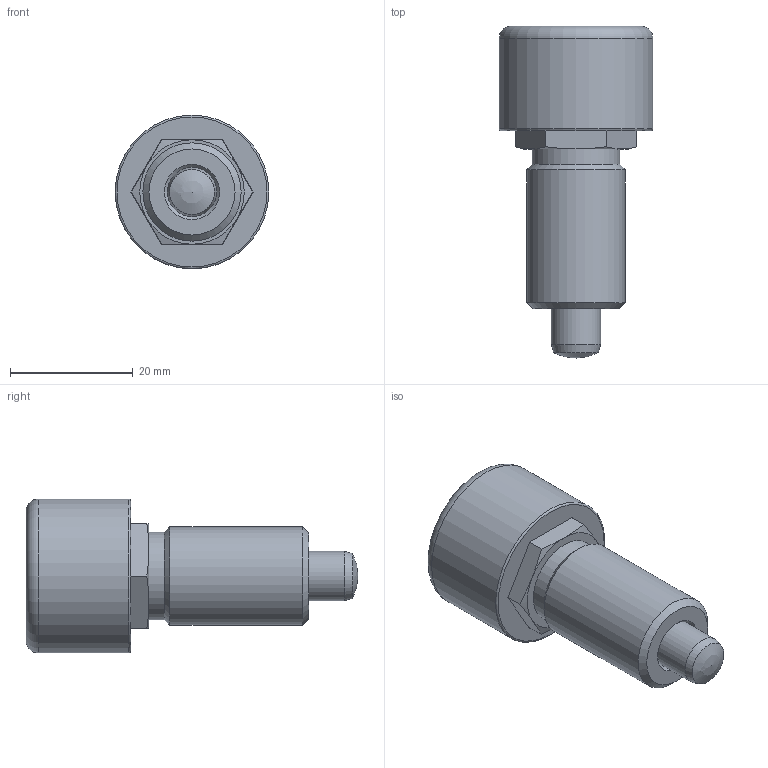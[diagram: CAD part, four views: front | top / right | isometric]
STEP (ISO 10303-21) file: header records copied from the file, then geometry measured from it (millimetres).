
FILE_DESCRIPTION( ( 'STEP AP203' ), '1' );
FILE_NAME( 'C:/Temp/Ganter_Step_05_03_2020/data/3_1/gn514/gn514_a/Locking plunger GN 514-8-A (activated).stp', '2020-03-12T08:32:06', ( 'License CC BY-ND 4.0' ), ( 'CADENAS' ), ' ', 'PARTsolutions', ' ' );
FILE_SCHEMA( ( 'CONFIG_CONTROL_DESIGN' ) );
Length unit declared in the file: millimetre
Products named in the file (3): Locking plunger GN 514-8-A (activated); _Locking plunger GN 514-8-A (betaetigt)-1; _Locking plunger GN 514-8-A (betaetigt)-2
Assembly tree (2 placements, depth 2):
  Locking plunger GN 514-8-A (activated)
    _Locking plunger GN 514-8-A (betaetigt)-1
    _Locking plunger GN 514-8-A (betaetigt)-2
Bounding box: 25 x 54 x 25 mm (x, y, z)
Volume: 13511 mm3; surface area: 8382.7 mm2
Topology: 2 solids, 2 shells, 68 faces, 135 edges, 81 vertices
Faces by surface type: plane 26, torus 16, cylinder 13, cone 11, bspline 1, sphere 1
Full cylindrical faces by diameter (mm): 8 x6, 12 x4, 14.2 x1, 16 x1, 25 x1
Entity records: 1729 total; most frequent: CARTESIAN_POINT 374, DIRECTION 270, ORIENTED_EDGE 190, AXIS2_PLACEMENT_3D 123, EDGE_LOOP 116, FACE_OUTER_BOUND 97, EDGE_CURVE 95, VERTEX_POINT 79
